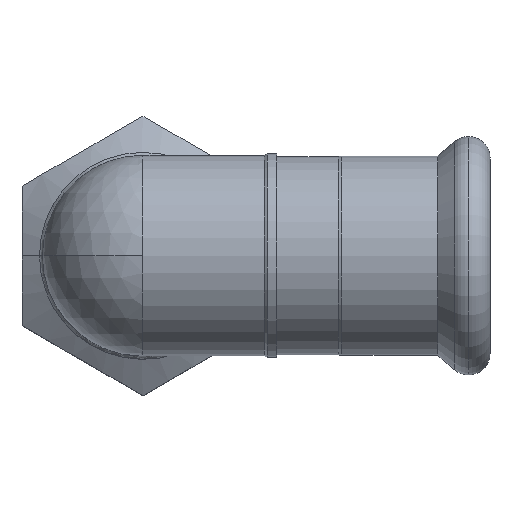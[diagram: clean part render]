
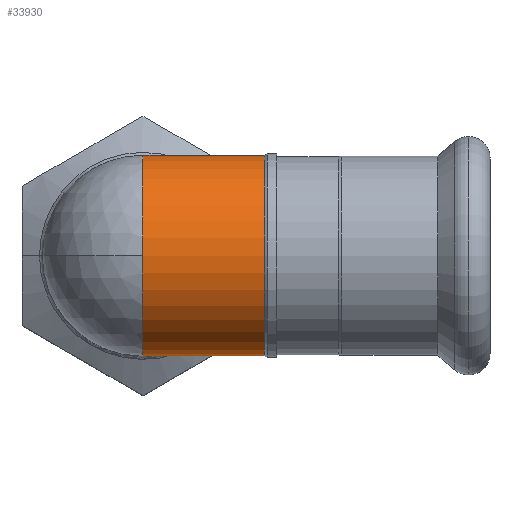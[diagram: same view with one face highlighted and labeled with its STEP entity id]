
A CAD part, top view. The second image highlights one B-rep face of the part: STEP entity #33930.
In plain terms, the highlighted cylindrical face has radius 15.75 mm (diameter 31.5 mm), a partial arc.
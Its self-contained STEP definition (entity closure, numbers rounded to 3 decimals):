
#2760=CARTESIAN_POINT('',(38.369,-76.286,52.75));
#2770=VERTEX_POINT('',#2760);
#2800=CARTESIAN_POINT('',(38.369,-76.286,37.));
#2810=DIRECTION('',(1.,0.,0.));
#2820=DIRECTION('',(0.,1.,0.));
#2830=AXIS2_PLACEMENT_3D('',#2800,#2810,#2820);
#2840=CIRCLE('',#2830,15.75);
#2850=CARTESIAN_POINT('',(38.369,-92.036,37.));
#2860=VERTEX_POINT('',#2850);
#2870=EDGE_CURVE('',#2770,#2860,#2840,.T.);
#3340=CARTESIAN_POINT('',(38.369,-60.536,37.));
#3350=VERTEX_POINT('',#3340);
#14350=EDGE_CURVE('',#3350,#2770,#2840,.T.);
#25550=CARTESIAN_POINT('',(57.869,-76.286,37.));
#25560=DIRECTION('',(1.,0.,0.));
#25570=DIRECTION('',(0.,1.,0.));
#25580=AXIS2_PLACEMENT_3D('',#25550,#25560,#25570);
#25590=CYLINDRICAL_SURFACE('',#25580,15.75);
#28180=CARTESIAN_POINT('',(57.869,-92.036,37.));
#28190=DIRECTION('',(1.,0.,0.));
#28200=VECTOR('',#28190,1.);
#28210=LINE('',#28180,#28200);
#28220=CARTESIAN_POINT('',(57.436,-92.036,37.));
#28230=VERTEX_POINT('',#28220);
#28240=EDGE_CURVE('',#2860,#28230,#28210,.T.);
#28260=CARTESIAN_POINT('',(57.436,-76.286,37.));
#28270=DIRECTION('',(1.,0.,0.));
#28280=DIRECTION('',(0.,1.,0.));
#28290=AXIS2_PLACEMENT_3D('',#28260,#28270,#28280);
#28300=CIRCLE('',#28290,15.75);
#28310=CARTESIAN_POINT('',(57.436,-60.536,37.));
#28320=VERTEX_POINT('',#28310);
#28350=CARTESIAN_POINT('',(57.869,-60.536,37.));
#28360=DIRECTION('',(1.,0.,0.));
#28370=VECTOR('',#28360,1.);
#28380=LINE('',#28350,#28370);
#28390=EDGE_CURVE('',#3350,#28320,#28380,.T.);
#33850=EDGE_CURVE('',#28320,#28230,#28300,.T.);
#33860=ORIENTED_EDGE('',*,*,#33850,.F.);
#33870=ORIENTED_EDGE('',*,*,#28240,.T.);
#33880=ORIENTED_EDGE('',*,*,#2870,.T.);
#33890=ORIENTED_EDGE('',*,*,#14350,.T.);
#33900=ORIENTED_EDGE('',*,*,#28390,.F.);
#33910=EDGE_LOOP('',(#33900,#33890,#33880,#33870,#33860));
#33920=FACE_OUTER_BOUND('',#33910,.T.);
#33930=ADVANCED_FACE('',(#33920),#25590,.T.);
